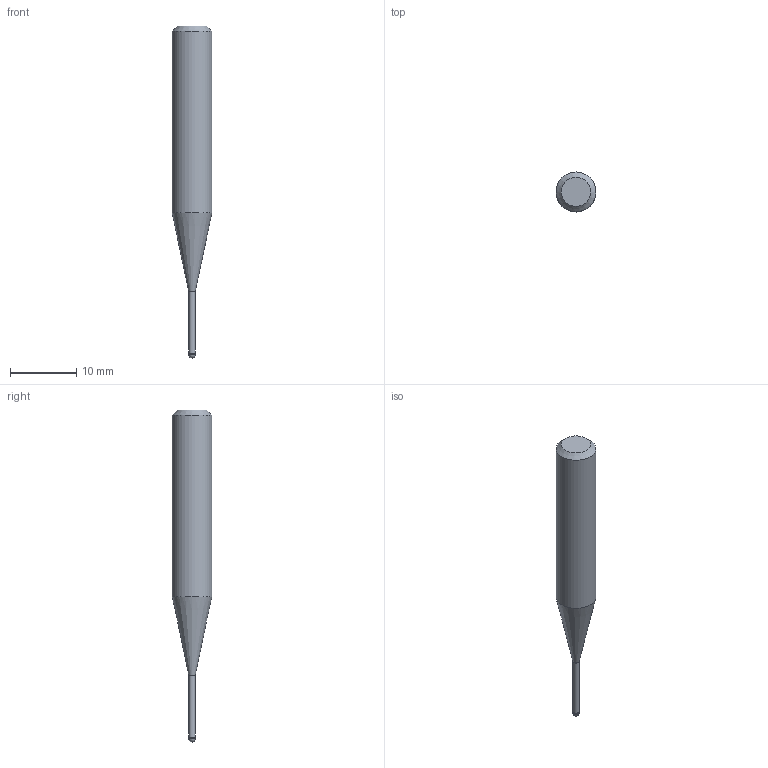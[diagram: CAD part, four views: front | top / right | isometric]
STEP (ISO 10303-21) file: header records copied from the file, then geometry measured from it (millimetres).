
FILE_DESCRIPTION((''),'2;1');
FILE_NAME('C:\Users\nsx150\AppData\Local\Temp\Mastercam 2021\3SYKECWX22\TEMP.step','2021-04-22T10:02:23',(''),(''),'STEP Write','Mastercam 2021 ... CNC Software, Inc.','');
FILE_SCHEMA(('AUTOMOTIVE_DESIGN'));
Length unit declared in the file: millimetre
Products named in the file (1): None
Bounding box: 6 x 6 x 50 mm (x, y, z)
Volume: 929.1 mm3; surface area: 712.7 mm2
Topology: 2 solids, 2 shells, 9 faces, 14 edges, 8 vertices
Faces by surface type: plane 3, cylinder 3, cone 2, sphere 1
Full cylindrical faces by diameter (mm): 0.95 x1, 1 x1, 6 x1
Entity records: 211 total; most frequent: DIRECTION 36, CARTESIAN_POINT 25, AXIS2_PLACEMENT_3D 18, ORIENTED_EDGE 14, EDGE_LOOP 14, STYLED_ITEM 12, ADVANCED_FACE 9, FACE_BOUND 8
